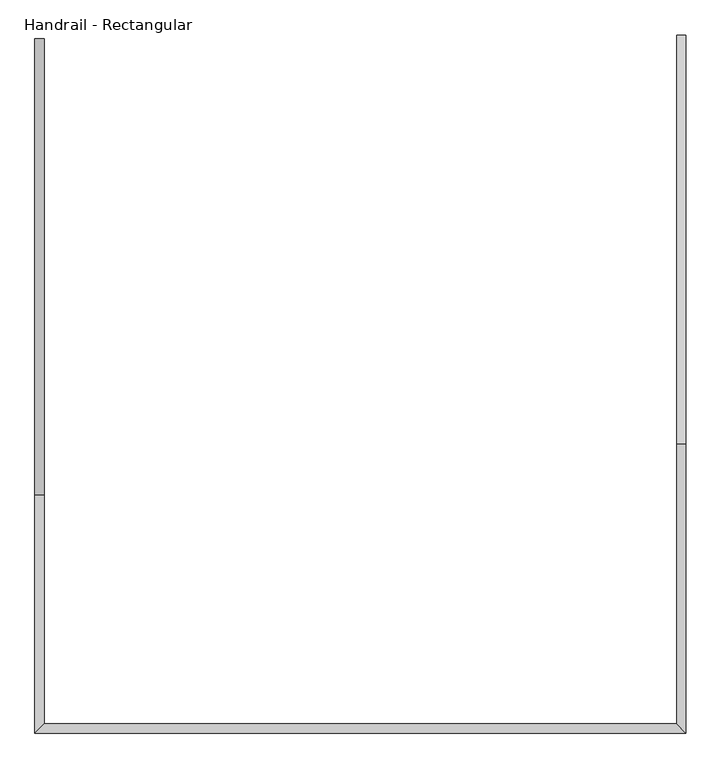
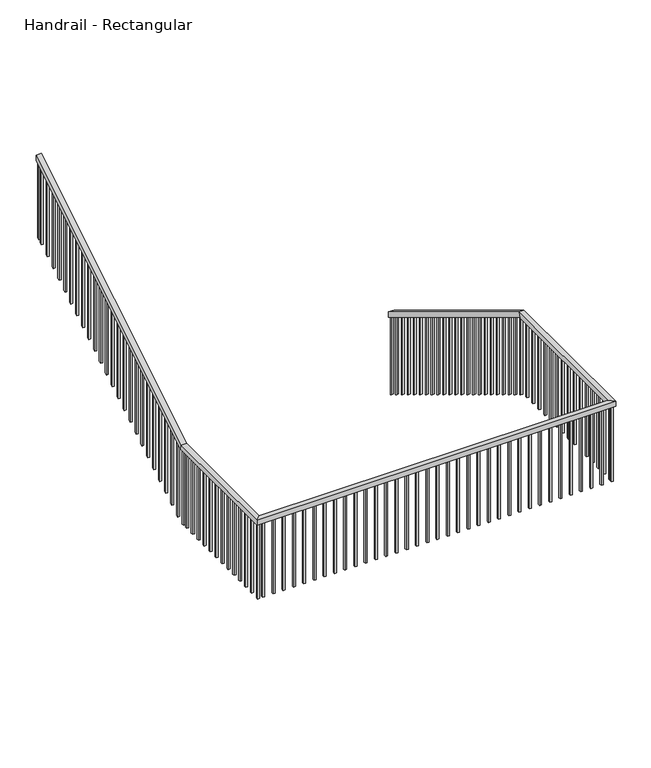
"""IFC4 building model written with IfcOpenShell, lengths in millimetres: railing geometry, Handrail - Rectangular."""

from ifc_helpers import new_model, si_unit, frame, origin, place, context, project, spatial, polyline, outline, extrude, faceted_brep, source, transform, mapped, element, save


def handrail_rectangular_05feaf7c(model_context):
    return source(origin(), model_context, "Body", "SolidModel", [
        faceted_brep([(1145.8499602, -2968.3161799, 4131.7333333), (1145.8499602, -2968.3161799, 4072.3318731), (1095.0499602, -2968.3161799, 4072.3318731), (1095.0499602, -2968.3161799, 4131.7333333), (1145.8499602, -5203.5161799, 5486.4), (1145.8499602, -5217.7085893, 5435.6), (1095.0499602, -5217.7085893, 5435.6), (1095.0499602, -5203.5161799, 5486.4), (1145.8499602, -6778.3161799, 5486.4), (1145.8499602, -6778.3161799, 5435.6), (1095.0499602, -6727.5161799, 5435.6), (1095.0499602, -6727.5161799, 5486.4), (-2410.1500398, -6778.3161799, 5486.4), (-2410.1500398, -6778.3161799, 5435.6), (-2359.3500398, -6727.5161799, 5435.6), (-2359.3500398, -6727.5161799, 5486.4), (-2410.1500398, -5479.8809769, 5486.4), (-2410.1500398, -5465.5555709, 5435.6), (-2359.3500398, -5465.5555709, 5435.6), (-2359.3500398, -5479.8809769, 5486.4), (-2410.1500398, -2989.5626011, 7012.2597197), (-2359.3500398, -2989.5626011, 7012.2597197), (-2359.3500398, -2989.5626011, 6952.6823038), (-2410.1500398, -2989.5626011, 6952.6823038)], [[[0, 1, 2, 3]], [[1, 0, 4, 5]], [[2, 1, 5, 6]], [[3, 2, 6, 7]], [[0, 3, 7, 4]], [[5, 4, 8, 9]], [[6, 5, 9, 10]], [[7, 6, 10, 11]], [[4, 7, 11, 8]], [[9, 8, 12, 13]], [[10, 9, 13, 14]], [[11, 10, 14, 15]], [[8, 11, 15, 12]], [[13, 12, 16, 17]], [[14, 13, 17, 18]], [[15, 14, 18, 19]], [[12, 15, 19, 16]], [[20, 21, 22, 23]], [[17, 16, 20, 23]], [[18, 17, 23, 22]], [[19, 18, 22, 21]], [[16, 19, 21, 20]]]),
        extrude(outline(polyline([(-3031.9559769, 6926.7071735), (-3031.9559769, 6115.2902251), (-3051.0059769, 6103.6179715), (-3051.0059769, 6915.0349199), (-3031.9559769, 6926.7071735)])), frame((-2394.2750398, 0.0, 0.0), z_axis=(1.0, 0.0, 0.0), x_axis=(0.0, 1.0, 0.0)), (0.0, 0.0, 1.0), 19.05),
        extrude(outline(polyline([(-3133.5559769, 6864.4551542), (-3133.5559769, 6053.0382058), (-3152.6059769, 6041.3659522), (-3152.6059769, 6852.7829006), (-3133.5559769, 6864.4551542)])), frame((-2394.2750398, 0.0, 0.0), z_axis=(1.0, 0.0, 0.0), x_axis=(0.0, 1.0, 0.0)), (0.0, 0.0, 1.0), 19.05),
        extrude(outline(polyline([(-3235.1559769, 6802.2031349), (-3235.1559769, 5990.7861866), (-3254.2059769, 5979.1139329), (-3254.2059769, 6790.5308813), (-3235.1559769, 6802.2031349)])), frame((-2394.2750398, 0.0, 0.0), z_axis=(1.0, 0.0, 0.0), x_axis=(0.0, 1.0, 0.0)), (0.0, 0.0, 1.0), 19.05),
        extrude(outline(polyline([(-3336.7559769, 6739.9511157), (-3336.7559769, 5928.5341673), (-3355.8059769, 5916.8619137), (-3355.8059769, 6728.2788621), (-3336.7559769, 6739.9511157)])), frame((-2394.2750398, 0.0, 0.0), z_axis=(1.0, 0.0, 0.0), x_axis=(0.0, 1.0, 0.0)), (0.0, 0.0, 1.0), 19.05),
        extrude(outline(polyline([(-3438.3559769, 6677.6990964), (-3438.3559769, 5866.282148), (-3457.4059769, 5854.6098944), (-3457.4059769, 6666.0268428), (-3438.3559769, 6677.6990964)])), frame((-2394.2750398, 0.0, 0.0), z_axis=(1.0, 0.0, 0.0), x_axis=(0.0, 1.0, 0.0)), (0.0, 0.0, 1.0), 19.05),
        extrude(outline(polyline([(-3539.9559769, 6615.4470771), (-3539.9559769, 5804.0301287), (-3559.0059769, 5792.3578751), (-3559.0059769, 6603.7748235), (-3539.9559769, 6615.4470771)])), frame((-2394.2750398, 0.0, 0.0), z_axis=(1.0, 0.0, 0.0), x_axis=(0.0, 1.0, 0.0)), (0.0, 0.0, 1.0), 19.05),
        extrude(outline(polyline([(-3641.5559769, 6553.1950579), (-3641.5559769, 5741.7781095), (-3660.6059769, 5730.1058559), (-3660.6059769, 6541.5228042), (-3641.5559769, 6553.1950579)])), frame((-2394.2750398, 0.0, 0.0), z_axis=(1.0, 0.0, 0.0), x_axis=(0.0, 1.0, 0.0)), (0.0, 0.0, 1.0), 19.05),
        extrude(outline(polyline([(-3743.1559769, 6490.9430386), (-3743.1559769, 5679.5260902), (-3762.2059769, 5667.8538366), (-3762.2059769, 6479.270785), (-3743.1559769, 6490.9430386)])), frame((-2394.2750398, 0.0, 0.0), z_axis=(1.0, 0.0, 0.0), x_axis=(0.0, 1.0, 0.0)), (0.0, 0.0, 1.0), 19.05),
        extrude(outline(polyline([(-3844.7559769, 6428.6910193), (-3844.7559769, 5617.2740709), (-3863.8059769, 5605.6018173), (-3863.8059769, 6417.0187657), (-3844.7559769, 6428.6910193)])), frame((-2394.2750398, 0.0, 0.0), z_axis=(1.0, 0.0, 0.0), x_axis=(0.0, 1.0, 0.0)), (0.0, 0.0, 1.0), 19.05),
        extrude(outline(polyline([(-3946.3559769, 6366.439), (-3946.3559769, 5555.0220517), (-3965.4059769, 5543.349798), (-3965.4059769, 6354.7667464), (-3946.3559769, 6366.439)])), frame((-2394.2750398, 0.0, 0.0), z_axis=(1.0, 0.0, 0.0), x_axis=(0.0, 1.0, 0.0)), (0.0, 0.0, 1.0), 19.05),
        extrude(outline(polyline([(-4047.9559769, 6304.1869808), (-4047.9559769, 5492.7700324), (-4067.0059769, 5481.0977788), (-4067.0059769, 6292.5147272), (-4047.9559769, 6304.1869808)])), frame((-2394.2750398, 0.0, 0.0), z_axis=(1.0, 0.0, 0.0), x_axis=(0.0, 1.0, 0.0)), (0.0, 0.0, 1.0), 19.05),
        extrude(outline(polyline([(-4149.5559769, 6241.9349615), (-4149.5559769, 5430.5180131), (-4168.6059769, 5418.8457595), (-4168.6059769, 6230.2627079), (-4149.5559769, 6241.9349615)])), frame((-2394.2750398, 0.0, 0.0), z_axis=(1.0, 0.0, 0.0), x_axis=(0.0, 1.0, 0.0)), (0.0, 0.0, 1.0), 19.05),
        extrude(outline(polyline([(-4251.1559769, 6179.6829422), (-4251.1559769, 5368.2659938), (-4270.2059769, 5356.5937402), (-4270.2059769, 6168.0106886), (-4251.1559769, 6179.6829422)])), frame((-2394.2750398, 0.0, 0.0), z_axis=(1.0, 0.0, 0.0), x_axis=(0.0, 1.0, 0.0)), (0.0, 0.0, 1.0), 19.05),
        extrude(outline(polyline([(-4352.7559769, 6117.430923), (-4352.7559769, 5306.0139746), (-4371.8059769, 5294.341721), (-4371.8059769, 6105.7586694), (-4352.7559769, 6117.430923)])), frame((-2394.2750398, 0.0, 0.0), z_axis=(1.0, 0.0, 0.0), x_axis=(0.0, 1.0, 0.0)), (0.0, 0.0, 1.0), 19.05),
        extrude(outline(polyline([(-4454.3559769, 6055.1789037), (-4454.3559769, 5243.7619553), (-4473.4059769, 5232.0897017), (-4473.4059769, 6043.5066501), (-4454.3559769, 6055.1789037)])), frame((-2394.2750398, 0.0, 0.0), z_axis=(1.0, 0.0, 0.0), x_axis=(0.0, 1.0, 0.0)), (0.0, 0.0, 1.0), 19.05),
        extrude(outline(polyline([(-4555.9559769, 5992.9268844), (-4555.9559769, 5181.509936), (-4575.0059769, 5169.8376824), (-4575.0059769, 5981.2546308), (-4555.9559769, 5992.9268844)])), frame((-2394.2750398, 0.0, 0.0), z_axis=(1.0, 0.0, 0.0), x_axis=(0.0, 1.0, 0.0)), (0.0, 0.0, 1.0), 19.05),
        extrude(outline(polyline([(-4657.5559769, 5930.6748652), (-4657.5559769, 5119.2579168), (-4676.6059769, 5107.5856632), (-4676.6059769, 5919.0026115), (-4657.5559769, 5930.6748652)])), frame((-2394.2750398, 0.0, 0.0), z_axis=(1.0, 0.0, 0.0), x_axis=(0.0, 1.0, 0.0)), (0.0, 0.0, 1.0), 19.05),
        extrude(outline(polyline([(-4759.1559769, 5868.4228459), (-4759.1559769, 5057.0058975), (-4778.2059769, 5045.3336439), (-4778.2059769, 5856.7505923), (-4759.1559769, 5868.4228459)])), frame((-2394.2750398, 0.0, 0.0), z_axis=(1.0, 0.0, 0.0), x_axis=(0.0, 1.0, 0.0)), (0.0, 0.0, 1.0), 19.05),
        extrude(outline(polyline([(-4860.7559769, 5806.1708266), (-4860.7559769, 4994.7538782), (-4879.8059769, 4983.0816246), (-4879.8059769, 5794.498573), (-4860.7559769, 5806.1708266)])), frame((-2394.2750398, 0.0, 0.0), z_axis=(1.0, 0.0, 0.0), x_axis=(0.0, 1.0, 0.0)), (0.0, 0.0, 1.0), 19.05),
        extrude(outline(polyline([(-4962.3559769, 5743.9188073), (-4962.3559769, 4932.501859), (-4981.4059769, 4920.8296053), (-4981.4059769, 5732.2465537), (-4962.3559769, 5743.9188073)])), frame((-2394.2750398, 0.0, 0.0), z_axis=(1.0, 0.0, 0.0), x_axis=(0.0, 1.0, 0.0)), (0.0, 0.0, 1.0), 19.05),
        extrude(outline(polyline([(-5063.9559769, 5681.6667881), (-5063.9559769, 4870.2498397), (-5083.0059769, 4858.5775861), (-5083.0059769, 5669.9945345), (-5063.9559769, 5681.6667881)])), frame((-2394.2750398, 0.0, 0.0), z_axis=(1.0, 0.0, 0.0), x_axis=(0.0, 1.0, 0.0)), (0.0, 0.0, 1.0), 19.05),
        extrude(outline(polyline([(-5165.5559769, 5619.4147688), (-5165.5559769, 4807.9978204), (-5184.6059769, 4796.3255668), (-5184.6059769, 5607.7425152), (-5165.5559769, 5619.4147688)])), frame((-2394.2750398, 0.0, 0.0), z_axis=(1.0, 0.0, 0.0), x_axis=(0.0, 1.0, 0.0)), (0.0, 0.0, 1.0), 19.05),
        extrude(outline(polyline([(-5267.1559769, 5557.1627495), (-5267.1559769, 4745.7458011), (-5286.2059769, 4734.0735475), (-5286.2059769, 5545.4904959), (-5267.1559769, 5557.1627495)])), frame((-2394.2750398, 0.0, 0.0), z_axis=(1.0, 0.0, 0.0), x_axis=(0.0, 1.0, 0.0)), (0.0, 0.0, 1.0), 19.05),
        extrude(outline(polyline([(-5368.7559769, 5494.9107303), (-5368.7559769, 4683.4937819), (-5387.8059769, 4671.8215283), (-5387.8059769, 5483.2384766), (-5368.7559769, 5494.9107303)])), frame((-2394.2750398, 0.0, 0.0), z_axis=(1.0, 0.0, 0.0), x_axis=(0.0, 1.0, 0.0)), (0.0, 0.0, 1.0), 19.05),
        extrude(outline(polyline([(-2394.2750398, -5543.2411799), (-2394.2750398, -5524.1911799), (-2375.2250398, -5524.1911799), (-2375.2250398, -5543.2411799), (-2394.2750398, -5543.2411799)])), frame((0.0, 0.0, 4648.2), z_axis=(0.0, 0.0, 1.0), x_axis=(1.0, 0.0, 0.0)), (0.0, 0.0, 1.0), 787.4),
        extrude(outline(polyline([(-2394.2750398, -5644.8411799), (-2394.2750398, -5625.7911799), (-2375.2250398, -5625.7911799), (-2375.2250398, -5644.8411799), (-2394.2750398, -5644.8411799)])), frame((0.0, 0.0, 4648.2), z_axis=(0.0, 0.0, 1.0), x_axis=(1.0, 0.0, 0.0)), (0.0, 0.0, 1.0), 787.4),
        extrude(outline(polyline([(-2394.2750398, -5746.4411799), (-2394.2750398, -5727.3911799), (-2375.2250398, -5727.3911799), (-2375.2250398, -5746.4411799), (-2394.2750398, -5746.4411799)])), frame((0.0, 0.0, 4648.2), z_axis=(0.0, 0.0, 1.0), x_axis=(1.0, 0.0, 0.0)), (0.0, 0.0, 1.0), 787.4),
        extrude(outline(polyline([(-2394.2750398, -5848.0411799), (-2394.2750398, -5828.9911799), (-2375.2250398, -5828.9911799), (-2375.2250398, -5848.0411799), (-2394.2750398, -5848.0411799)])), frame((0.0, 0.0, 4648.2), z_axis=(0.0, 0.0, 1.0), x_axis=(1.0, 0.0, 0.0)), (0.0, 0.0, 1.0), 787.4),
        extrude(outline(polyline([(-2394.2750398, -5949.6411799), (-2394.2750398, -5930.5911799), (-2375.2250398, -5930.5911799), (-2375.2250398, -5949.6411799), (-2394.2750398, -5949.6411799)])), frame((0.0, 0.0, 4648.2), z_axis=(0.0, 0.0, 1.0), x_axis=(1.0, 0.0, 0.0)), (0.0, 0.0, 1.0), 787.4),
        extrude(outline(polyline([(-2394.2750398, -6051.2411799), (-2394.2750398, -6032.1911799), (-2375.2250398, -6032.1911799), (-2375.2250398, -6051.2411799), (-2394.2750398, -6051.2411799)])), frame((0.0, 0.0, 4648.2), z_axis=(0.0, 0.0, 1.0), x_axis=(1.0, 0.0, 0.0)), (0.0, 0.0, 1.0), 787.4),
        extrude(outline(polyline([(-2394.2750398, -6152.8411799), (-2394.2750398, -6133.7911799), (-2375.2250398, -6133.7911799), (-2375.2250398, -6152.8411799), (-2394.2750398, -6152.8411799)])), frame((0.0, 0.0, 4648.2), z_axis=(0.0, 0.0, 1.0), x_axis=(1.0, 0.0, 0.0)), (0.0, 0.0, 1.0), 787.4),
        extrude(outline(polyline([(-2394.2750398, -6254.4411799), (-2394.2750398, -6235.3911799), (-2375.2250398, -6235.3911799), (-2375.2250398, -6254.4411799), (-2394.2750398, -6254.4411799)])), frame((0.0, 0.0, 4648.2), z_axis=(0.0, 0.0, 1.0), x_axis=(1.0, 0.0, 0.0)), (0.0, 0.0, 1.0), 787.4),
        extrude(outline(polyline([(-2394.2750398, -6356.0411799), (-2394.2750398, -6336.9911799), (-2375.2250398, -6336.9911799), (-2375.2250398, -6356.0411799), (-2394.2750398, -6356.0411799)])), frame((0.0, 0.0, 4648.2), z_axis=(0.0, 0.0, 1.0), x_axis=(1.0, 0.0, 0.0)), (0.0, 0.0, 1.0), 787.4),
        extrude(outline(polyline([(-2394.2750398, -6457.6411799), (-2394.2750398, -6438.5911799), (-2375.2250398, -6438.5911799), (-2375.2250398, -6457.6411799), (-2394.2750398, -6457.6411799)])), frame((0.0, 0.0, 4648.2), z_axis=(0.0, 0.0, 1.0), x_axis=(1.0, 0.0, 0.0)), (0.0, 0.0, 1.0), 787.4),
        extrude(outline(polyline([(-2394.2750398, -6559.2411799), (-2394.2750398, -6540.1911799), (-2375.2250398, -6540.1911799), (-2375.2250398, -6559.2411799), (-2394.2750398, -6559.2411799)])), frame((0.0, 0.0, 4648.2), z_axis=(0.0, 0.0, 1.0), x_axis=(1.0, 0.0, 0.0)), (0.0, 0.0, 1.0), 787.4),
        extrude(outline(polyline([(-2394.2750398, -6660.8411799), (-2394.2750398, -6641.7911799), (-2375.2250398, -6641.7911799), (-2375.2250398, -6660.8411799), (-2394.2750398, -6660.8411799)])), frame((0.0, 0.0, 4648.2), z_axis=(0.0, 0.0, 1.0), x_axis=(1.0, 0.0, 0.0)), (0.0, 0.0, 1.0), 787.4),
        extrude(outline(polyline([(-2324.4250398, -6762.4411799), (-2343.4750398, -6762.4411799), (-2343.4750398, -6743.3911799), (-2324.4250398, -6743.3911799), (-2324.4250398, -6762.4411799)])), frame((0.0, 0.0, 4648.2), z_axis=(0.0, 0.0, 1.0), x_axis=(1.0, 0.0, 0.0)), (0.0, 0.0, 1.0), 787.4),
        extrude(outline(polyline([(-2222.8250398, -6762.4411799), (-2241.8750398, -6762.4411799), (-2241.8750398, -6743.3911799), (-2222.8250398, -6743.3911799), (-2222.8250398, -6762.4411799)])), frame((0.0, 0.0, 4648.2), z_axis=(0.0, 0.0, 1.0), x_axis=(1.0, 0.0, 0.0)), (0.0, 0.0, 1.0), 787.4),
        extrude(outline(polyline([(-2121.2250398, -6762.4411799), (-2140.2750398, -6762.4411799), (-2140.2750398, -6743.3911799), (-2121.2250398, -6743.3911799), (-2121.2250398, -6762.4411799)])), frame((0.0, 0.0, 4648.2), z_axis=(0.0, 0.0, 1.0), x_axis=(1.0, 0.0, 0.0)), (0.0, 0.0, 1.0), 787.4),
        extrude(outline(polyline([(-2019.6250398, -6762.4411799), (-2038.6750398, -6762.4411799), (-2038.6750398, -6743.3911799), (-2019.6250398, -6743.3911799), (-2019.6250398, -6762.4411799)])), frame((0.0, 0.0, 4648.2), z_axis=(0.0, 0.0, 1.0), x_axis=(1.0, 0.0, 0.0)), (0.0, 0.0, 1.0), 787.4),
        extrude(outline(polyline([(-1918.0250398, -6762.4411799), (-1937.0750398, -6762.4411799), (-1937.0750398, -6743.3911799), (-1918.0250398, -6743.3911799), (-1918.0250398, -6762.4411799)])), frame((0.0, 0.0, 4648.2), z_axis=(0.0, 0.0, 1.0), x_axis=(1.0, 0.0, 0.0)), (0.0, 0.0, 1.0), 787.4),
        extrude(outline(polyline([(-1816.4250398, -6762.4411799), (-1835.4750398, -6762.4411799), (-1835.4750398, -6743.3911799), (-1816.4250398, -6743.3911799), (-1816.4250398, -6762.4411799)])), frame((0.0, 0.0, 4648.2), z_axis=(0.0, 0.0, 1.0), x_axis=(1.0, 0.0, 0.0)), (0.0, 0.0, 1.0), 787.4),
        extrude(outline(polyline([(-1714.8250398, -6762.4411799), (-1733.8750398, -6762.4411799), (-1733.8750398, -6743.3911799), (-1714.8250398, -6743.3911799), (-1714.8250398, -6762.4411799)])), frame((0.0, 0.0, 4648.2), z_axis=(0.0, 0.0, 1.0), x_axis=(1.0, 0.0, 0.0)), (0.0, 0.0, 1.0), 787.4),
        extrude(outline(polyline([(-1613.2250398, -6762.4411799), (-1632.2750398, -6762.4411799), (-1632.2750398, -6743.3911799), (-1613.2250398, -6743.3911799), (-1613.2250398, -6762.4411799)])), frame((0.0, 0.0, 4648.2), z_axis=(0.0, 0.0, 1.0), x_axis=(1.0, 0.0, 0.0)), (0.0, 0.0, 1.0), 787.4),
        extrude(outline(polyline([(-1511.6250398, -6762.4411799), (-1530.6750398, -6762.4411799), (-1530.6750398, -6743.3911799), (-1511.6250398, -6743.3911799), (-1511.6250398, -6762.4411799)])), frame((0.0, 0.0, 4648.2), z_axis=(0.0, 0.0, 1.0), x_axis=(1.0, 0.0, 0.0)), (0.0, 0.0, 1.0), 787.4),
        extrude(outline(polyline([(-1410.0250398, -6762.4411799), (-1429.0750398, -6762.4411799), (-1429.0750398, -6743.3911799), (-1410.0250398, -6743.3911799), (-1410.0250398, -6762.4411799)])), frame((0.0, 0.0, 4648.2), z_axis=(0.0, 0.0, 1.0), x_axis=(1.0, 0.0, 0.0)), (0.0, 0.0, 1.0), 787.4),
        extrude(outline(polyline([(-1308.4250398, -6762.4411799), (-1327.4750398, -6762.4411799), (-1327.4750398, -6743.3911799), (-1308.4250398, -6743.3911799), (-1308.4250398, -6762.4411799)])), frame((0.0, 0.0, 4648.2), z_axis=(0.0, 0.0, 1.0), x_axis=(1.0, 0.0, 0.0)), (0.0, 0.0, 1.0), 787.4),
        extrude(outline(polyline([(-1206.8250398, -6762.4411799), (-1225.8750398, -6762.4411799), (-1225.8750398, -6743.3911799), (-1206.8250398, -6743.3911799), (-1206.8250398, -6762.4411799)])), frame((0.0, 0.0, 4648.2), z_axis=(0.0, 0.0, 1.0), x_axis=(1.0, 0.0, 0.0)), (0.0, 0.0, 1.0), 787.4),
        extrude(outline(polyline([(-1105.2250398, -6762.4411799), (-1124.2750398, -6762.4411799), (-1124.2750398, -6743.3911799), (-1105.2250398, -6743.3911799), (-1105.2250398, -6762.4411799)])), frame((0.0, 0.0, 4648.2), z_axis=(0.0, 0.0, 1.0), x_axis=(1.0, 0.0, 0.0)), (0.0, 0.0, 1.0), 787.4),
        extrude(outline(polyline([(-1003.6250398, -6762.4411799), (-1022.6750398, -6762.4411799), (-1022.6750398, -6743.3911799), (-1003.6250398, -6743.3911799), (-1003.6250398, -6762.4411799)])), frame((0.0, 0.0, 4648.2), z_axis=(0.0, 0.0, 1.0), x_axis=(1.0, 0.0, 0.0)), (0.0, 0.0, 1.0), 787.4),
        extrude(outline(polyline([(-902.0250398, -6762.4411799), (-921.0750398, -6762.4411799), (-921.0750398, -6743.3911799), (-902.0250398, -6743.3911799), (-902.0250398, -6762.4411799)])), frame((0.0, 0.0, 4648.2), z_axis=(0.0, 0.0, 1.0), x_axis=(1.0, 0.0, 0.0)), (0.0, 0.0, 1.0), 787.4),
        extrude(outline(polyline([(-800.4250398, -6762.4411799), (-819.4750398, -6762.4411799), (-819.4750398, -6743.3911799), (-800.4250398, -6743.3911799), (-800.4250398, -6762.4411799)])), frame((0.0, 0.0, 4648.2), z_axis=(0.0, 0.0, 1.0), x_axis=(1.0, 0.0, 0.0)), (0.0, 0.0, 1.0), 787.4),
        extrude(outline(polyline([(-698.8250398, -6762.4411799), (-717.8750398, -6762.4411799), (-717.8750398, -6743.3911799), (-698.8250398, -6743.3911799), (-698.8250398, -6762.4411799)])), frame((0.0, 0.0, 4648.2), z_axis=(0.0, 0.0, 1.0), x_axis=(1.0, 0.0, 0.0)), (0.0, 0.0, 1.0), 787.4),
        extrude(outline(polyline([(-597.2250398, -6762.4411799), (-616.2750398, -6762.4411799), (-616.2750398, -6743.3911799), (-597.2250398, -6743.3911799), (-597.2250398, -6762.4411799)])), frame((0.0, 0.0, 4648.2), z_axis=(0.0, 0.0, 1.0), x_axis=(1.0, 0.0, 0.0)), (0.0, 0.0, 1.0), 787.4),
        extrude(outline(polyline([(-495.6250398, -6762.4411799), (-514.6750398, -6762.4411799), (-514.6750398, -6743.3911799), (-495.6250398, -6743.3911799), (-495.6250398, -6762.4411799)])), frame((0.0, 0.0, 4648.2), z_axis=(0.0, 0.0, 1.0), x_axis=(1.0, 0.0, 0.0)), (0.0, 0.0, 1.0), 787.4),
        extrude(outline(polyline([(-394.0250398, -6762.4411799), (-413.0750398, -6762.4411799), (-413.0750398, -6743.3911799), (-394.0250398, -6743.3911799), (-394.0250398, -6762.4411799)])), frame((0.0, 0.0, 4648.2), z_axis=(0.0, 0.0, 1.0), x_axis=(1.0, 0.0, 0.0)), (0.0, 0.0, 1.0), 787.4),
        extrude(outline(polyline([(-292.4250398, -6762.4411799), (-311.4750398, -6762.4411799), (-311.4750398, -6743.3911799), (-292.4250398, -6743.3911799), (-292.4250398, -6762.4411799)])), frame((0.0, 0.0, 4648.2), z_axis=(0.0, 0.0, 1.0), x_axis=(1.0, 0.0, 0.0)), (0.0, 0.0, 1.0), 787.4),
        extrude(outline(polyline([(-190.8250398, -6762.4411799), (-209.8750398, -6762.4411799), (-209.8750398, -6743.3911799), (-190.8250398, -6743.3911799), (-190.8250398, -6762.4411799)])), frame((0.0, 0.0, 4648.2), z_axis=(0.0, 0.0, 1.0), x_axis=(1.0, 0.0, 0.0)), (0.0, 0.0, 1.0), 787.4),
        extrude(outline(polyline([(-89.2250398, -6762.4411799), (-108.2750398, -6762.4411799), (-108.2750398, -6743.3911799), (-89.2250398, -6743.3911799), (-89.2250398, -6762.4411799)])), frame((0.0, 0.0, 4648.2), z_axis=(0.0, 0.0, 1.0), x_axis=(1.0, 0.0, 0.0)), (0.0, 0.0, 1.0), 787.4),
        extrude(outline(polyline([(12.3749602, -6762.4411799), (-6.6750398, -6762.4411799), (-6.6750398, -6743.3911799), (12.3749602, -6743.3911799), (12.3749602, -6762.4411799)])), frame((0.0, 0.0, 4648.2), z_axis=(0.0, 0.0, 1.0), x_axis=(1.0, 0.0, 0.0)), (0.0, 0.0, 1.0), 787.4),
        extrude(outline(polyline([(113.9749602, -6762.4411799), (94.9249602, -6762.4411799), (94.9249602, -6743.3911799), (113.9749602, -6743.3911799), (113.9749602, -6762.4411799)])), frame((0.0, 0.0, 4648.2), z_axis=(0.0, 0.0, 1.0), x_axis=(1.0, 0.0, 0.0)), (0.0, 0.0, 1.0), 787.4),
        extrude(outline(polyline([(215.5749602, -6762.4411799), (196.5249602, -6762.4411799), (196.5249602, -6743.3911799), (215.5749602, -6743.3911799), (215.5749602, -6762.4411799)])), frame((0.0, 0.0, 4648.2), z_axis=(0.0, 0.0, 1.0), x_axis=(1.0, 0.0, 0.0)), (0.0, 0.0, 1.0), 787.4),
        extrude(outline(polyline([(317.1749602, -6762.4411799), (298.1249602, -6762.4411799), (298.1249602, -6743.3911799), (317.1749602, -6743.3911799), (317.1749602, -6762.4411799)])), frame((0.0, 0.0, 4648.2), z_axis=(0.0, 0.0, 1.0), x_axis=(1.0, 0.0, 0.0)), (0.0, 0.0, 1.0), 787.4),
        extrude(outline(polyline([(418.7749602, -6762.4411799), (399.7249602, -6762.4411799), (399.7249602, -6743.3911799), (418.7749602, -6743.3911799), (418.7749602, -6762.4411799)])), frame((0.0, 0.0, 4648.2), z_axis=(0.0, 0.0, 1.0), x_axis=(1.0, 0.0, 0.0)), (0.0, 0.0, 1.0), 787.4),
        extrude(outline(polyline([(520.3749602, -6762.4411799), (501.3249602, -6762.4411799), (501.3249602, -6743.3911799), (520.3749602, -6743.3911799), (520.3749602, -6762.4411799)])), frame((0.0, 0.0, 4648.2), z_axis=(0.0, 0.0, 1.0), x_axis=(1.0, 0.0, 0.0)), (0.0, 0.0, 1.0), 787.4),
        extrude(outline(polyline([(621.9749602, -6762.4411799), (602.9249602, -6762.4411799), (602.9249602, -6743.3911799), (621.9749602, -6743.3911799), (621.9749602, -6762.4411799)])), frame((0.0, 0.0, 4648.2), z_axis=(0.0, 0.0, 1.0), x_axis=(1.0, 0.0, 0.0)), (0.0, 0.0, 1.0), 787.4),
        extrude(outline(polyline([(723.5749602, -6762.4411799), (704.5249602, -6762.4411799), (704.5249602, -6743.3911799), (723.5749602, -6743.3911799), (723.5749602, -6762.4411799)])), frame((0.0, 0.0, 4648.2), z_axis=(0.0, 0.0, 1.0), x_axis=(1.0, 0.0, 0.0)), (0.0, 0.0, 1.0), 787.4),
        extrude(outline(polyline([(825.1749602, -6762.4411799), (806.1249602, -6762.4411799), (806.1249602, -6743.3911799), (825.1749602, -6743.3911799), (825.1749602, -6762.4411799)])), frame((0.0, 0.0, 4648.2), z_axis=(0.0, 0.0, 1.0), x_axis=(1.0, 0.0, 0.0)), (0.0, 0.0, 1.0), 787.4),
        extrude(outline(polyline([(926.7749602, -6762.4411799), (907.7249602, -6762.4411799), (907.7249602, -6743.3911799), (926.7749602, -6743.3911799), (926.7749602, -6762.4411799)])), frame((0.0, 0.0, 4648.2), z_axis=(0.0, 0.0, 1.0), x_axis=(1.0, 0.0, 0.0)), (0.0, 0.0, 1.0), 787.4),
        extrude(outline(polyline([(1028.3749602, -6762.4411799), (1009.3249602, -6762.4411799), (1009.3249602, -6743.3911799), (1028.3749602, -6743.3911799), (1028.3749602, -6762.4411799)])), frame((0.0, 0.0, 4648.2), z_axis=(0.0, 0.0, 1.0), x_axis=(1.0, 0.0, 0.0)), (0.0, 0.0, 1.0), 787.4),
        extrude(outline(polyline([(1129.9749602, -6717.9911799), (1129.9749602, -6737.0411799), (1110.9249602, -6737.0411799), (1110.9249602, -6717.9911799), (1129.9749602, -6717.9911799)])), frame((0.0, 0.0, 4648.2), z_axis=(0.0, 0.0, 1.0), x_axis=(1.0, 0.0, 0.0)), (0.0, 0.0, 1.0), 787.4),
        extrude(outline(polyline([(1129.9749602, -6616.3911799), (1129.9749602, -6635.4411799), (1110.9249602, -6635.4411799), (1110.9249602, -6616.3911799), (1129.9749602, -6616.3911799)])), frame((0.0, 0.0, 4648.2), z_axis=(0.0, 0.0, 1.0), x_axis=(1.0, 0.0, 0.0)), (0.0, 0.0, 1.0), 787.4),
        extrude(outline(polyline([(1129.9749602, -6514.7911799), (1129.9749602, -6533.8411799), (1110.9249602, -6533.8411799), (1110.9249602, -6514.7911799), (1129.9749602, -6514.7911799)])), frame((0.0, 0.0, 4648.2), z_axis=(0.0, 0.0, 1.0), x_axis=(1.0, 0.0, 0.0)), (0.0, 0.0, 1.0), 787.4),
        extrude(outline(polyline([(1129.9749602, -6413.1911799), (1129.9749602, -6432.2411799), (1110.9249602, -6432.2411799), (1110.9249602, -6413.1911799), (1129.9749602, -6413.1911799)])), frame((0.0, 0.0, 4648.2), z_axis=(0.0, 0.0, 1.0), x_axis=(1.0, 0.0, 0.0)), (0.0, 0.0, 1.0), 787.4),
        extrude(outline(polyline([(1129.9749602, -6311.5911799), (1129.9749602, -6330.6411799), (1110.9249602, -6330.6411799), (1110.9249602, -6311.5911799), (1129.9749602, -6311.5911799)])), frame((0.0, 0.0, 4648.2), z_axis=(0.0, 0.0, 1.0), x_axis=(1.0, 0.0, 0.0)), (0.0, 0.0, 1.0), 787.4),
        extrude(outline(polyline([(1129.9749602, -6209.9911799), (1129.9749602, -6229.0411799), (1110.9249602, -6229.0411799), (1110.9249602, -6209.9911799), (1129.9749602, -6209.9911799)])), frame((0.0, 0.0, 4648.2), z_axis=(0.0, 0.0, 1.0), x_axis=(1.0, 0.0, 0.0)), (0.0, 0.0, 1.0), 787.4),
        extrude(outline(polyline([(1129.9749602, -6108.3911799), (1129.9749602, -6127.4411799), (1110.9249602, -6127.4411799), (1110.9249602, -6108.3911799), (1129.9749602, -6108.3911799)])), frame((0.0, 0.0, 4648.2), z_axis=(0.0, 0.0, 1.0), x_axis=(1.0, 0.0, 0.0)), (0.0, 0.0, 1.0), 787.4),
        extrude(outline(polyline([(1129.9749602, -6006.7911799), (1129.9749602, -6025.8411799), (1110.9249602, -6025.8411799), (1110.9249602, -6006.7911799), (1129.9749602, -6006.7911799)])), frame((0.0, 0.0, 4648.2), z_axis=(0.0, 0.0, 1.0), x_axis=(1.0, 0.0, 0.0)), (0.0, 0.0, 1.0), 787.4),
        extrude(outline(polyline([(1129.9749602, -5905.1911799), (1129.9749602, -5924.2411799), (1110.9249602, -5924.2411799), (1110.9249602, -5905.1911799), (1129.9749602, -5905.1911799)])), frame((0.0, 0.0, 4648.2), z_axis=(0.0, 0.0, 1.0), x_axis=(1.0, 0.0, 0.0)), (0.0, 0.0, 1.0), 787.4),
        extrude(outline(polyline([(1129.9749602, -5803.5911799), (1129.9749602, -5822.6411799), (1110.9249602, -5822.6411799), (1110.9249602, -5803.5911799), (1129.9749602, -5803.5911799)])), frame((0.0, 0.0, 4648.2), z_axis=(0.0, 0.0, 1.0), x_axis=(1.0, 0.0, 0.0)), (0.0, 0.0, 1.0), 787.4),
        extrude(outline(polyline([(1129.9749602, -5701.9911799), (1129.9749602, -5721.0411799), (1110.9249602, -5721.0411799), (1110.9249602, -5701.9911799), (1129.9749602, -5701.9911799)])), frame((0.0, 0.0, 4648.2), z_axis=(0.0, 0.0, 1.0), x_axis=(1.0, 0.0, 0.0)), (0.0, 0.0, 1.0), 787.4),
        extrude(outline(polyline([(1129.9749602, -5600.3911799), (1129.9749602, -5619.4411799), (1110.9249602, -5619.4411799), (1110.9249602, -5600.3911799), (1129.9749602, -5600.3911799)])), frame((0.0, 0.0, 4648.2), z_axis=(0.0, 0.0, 1.0), x_axis=(1.0, 0.0, 0.0)), (0.0, 0.0, 1.0), 787.4),
        extrude(outline(polyline([(1129.9749602, -5498.7911799), (1129.9749602, -5517.8411799), (1110.9249602, -5517.8411799), (1110.9249602, -5498.7911799), (1129.9749602, -5498.7911799)])), frame((0.0, 0.0, 4648.2), z_axis=(0.0, 0.0, 1.0), x_axis=(1.0, 0.0, 0.0)), (0.0, 0.0, 1.0), 787.4),
        extrude(outline(polyline([(1129.9749602, -5397.1911799), (1129.9749602, -5416.2411799), (1110.9249602, -5416.2411799), (1110.9249602, -5397.1911799), (1129.9749602, -5397.1911799)])), frame((0.0, 0.0, 4648.2), z_axis=(0.0, 0.0, 1.0), x_axis=(1.0, 0.0, 0.0)), (0.0, 0.0, 1.0), 787.4),
        extrude(outline(polyline([(1129.9749602, -5295.5911799), (1129.9749602, -5314.6411799), (1110.9249602, -5314.6411799), (1110.9249602, -5295.5911799), (1129.9749602, -5295.5911799)])), frame((0.0, 0.0, 4648.2), z_axis=(0.0, 0.0, 1.0), x_axis=(1.0, 0.0, 0.0)), (0.0, 0.0, 1.0), 787.4),
        extrude(outline(polyline([(-5092.3911799, 5359.6500549), (-5092.3911799, 4547.4326938), (-5111.4411799, 4558.9781483), (-5111.4411799, 5371.1955094), (-5092.3911799, 5359.6500549)])), frame((1110.9249602, 0.0, 0.0), z_axis=(1.0, 0.0, 0.0), x_axis=(0.0, 1.0, 0.0)), (0.0, 0.0, 1.0), 19.05),
        extrude(outline(polyline([(-4990.7911799, 5298.0742973), (-4990.7911799, 4485.8569362), (-5009.8411799, 4497.4023907), (-5009.8411799, 5309.6197519), (-4990.7911799, 5298.0742973)])), frame((1110.9249602, 0.0, 0.0), z_axis=(1.0, 0.0, 0.0), x_axis=(0.0, 1.0, 0.0)), (0.0, 0.0, 1.0), 19.05),
        extrude(outline(polyline([(-4889.1911799, 5236.4985397), (-4889.1911799, 4424.2811786), (-4908.2411799, 4435.8266332), (-4908.2411799, 5248.0439943), (-4889.1911799, 5236.4985397)])), frame((1110.9249602, 0.0, 0.0), z_axis=(1.0, 0.0, 0.0), x_axis=(0.0, 1.0, 0.0)), (0.0, 0.0, 1.0), 19.05),
        extrude(outline(polyline([(-4787.5911799, 5174.9227822), (-4787.5911799, 4362.7054211), (-4806.6411799, 4374.2508756), (-4806.6411799, 5186.4682367), (-4787.5911799, 5174.9227822)])), frame((1110.9249602, 0.0, 0.0), z_axis=(1.0, 0.0, 0.0), x_axis=(0.0, 1.0, 0.0)), (0.0, 0.0, 1.0), 19.05),
        extrude(outline(polyline([(-4685.9911799, 5113.3470246), (-4685.9911799, 4301.1296635), (-4705.0411799, 4312.675118), (-4705.0411799, 5124.8924791), (-4685.9911799, 5113.3470246)])), frame((1110.9249602, 0.0, 0.0), z_axis=(1.0, 0.0, 0.0), x_axis=(0.0, 1.0, 0.0)), (0.0, 0.0, 1.0), 19.05),
        extrude(outline(polyline([(-4584.3911799, 5051.771267), (-4584.3911799, 4239.5539059), (-4603.4411799, 4251.0993604), (-4603.4411799, 5063.3167216), (-4584.3911799, 5051.771267)])), frame((1110.9249602, 0.0, 0.0), z_axis=(1.0, 0.0, 0.0), x_axis=(0.0, 1.0, 0.0)), (0.0, 0.0, 1.0), 19.05),
        extrude(outline(polyline([(-4482.7911799, 4990.1955094), (-4482.7911799, 4177.9781483), (-4501.8411799, 4189.5236029), (-4501.8411799, 5001.740964), (-4482.7911799, 4990.1955094)])), frame((1110.9249602, 0.0, 0.0), z_axis=(1.0, 0.0, 0.0), x_axis=(0.0, 1.0, 0.0)), (0.0, 0.0, 1.0), 19.05),
        extrude(outline(polyline([(-4381.1911799, 4928.6197519), (-4381.1911799, 4116.4023907), (-4400.2411799, 4127.9478453), (-4400.2411799, 4940.1652064), (-4381.1911799, 4928.6197519)])), frame((1110.9249602, 0.0, 0.0), z_axis=(1.0, 0.0, 0.0), x_axis=(0.0, 1.0, 0.0)), (0.0, 0.0, 1.0), 19.05),
        extrude(outline(polyline([(-4279.5911799, 4867.0439943), (-4279.5911799, 4054.8266332), (-4298.6411799, 4066.3720877), (-4298.6411799, 4878.5894488), (-4279.5911799, 4867.0439943)])), frame((1110.9249602, 0.0, 0.0), z_axis=(1.0, 0.0, 0.0), x_axis=(0.0, 1.0, 0.0)), (0.0, 0.0, 1.0), 19.05),
        extrude(outline(polyline([(-4177.9911799, 4805.4682367), (-4177.9911799, 3993.2508756), (-4197.0411799, 4004.7963301), (-4197.0411799, 4817.0136913), (-4177.9911799, 4805.4682367)])), frame((1110.9249602, 0.0, 0.0), z_axis=(1.0, 0.0, 0.0), x_axis=(0.0, 1.0, 0.0)), (0.0, 0.0, 1.0), 19.05),
        extrude(outline(polyline([(-4076.3911799, 4743.8924791), (-4076.3911799, 3931.675118), (-4095.4411799, 3943.2205726), (-4095.4411799, 4755.4379337), (-4076.3911799, 4743.8924791)])), frame((1110.9249602, 0.0, 0.0), z_axis=(1.0, 0.0, 0.0), x_axis=(0.0, 1.0, 0.0)), (0.0, 0.0, 1.0), 19.05),
        extrude(outline(polyline([(-3974.7911799, 4682.3167216), (-3974.7911799, 3870.0993604), (-3993.8411799, 3881.644815), (-3993.8411799, 4693.8621761), (-3974.7911799, 4682.3167216)])), frame((1110.9249602, 0.0, 0.0), z_axis=(1.0, 0.0, 0.0), x_axis=(0.0, 1.0, 0.0)), (0.0, 0.0, 1.0), 19.05),
        extrude(outline(polyline([(-3873.1911799, 4620.740964), (-3873.1911799, 3808.5236029), (-3892.2411799, 3820.0690574), (-3892.2411799, 4632.2864185), (-3873.1911799, 4620.740964)])), frame((1110.9249602, 0.0, 0.0), z_axis=(1.0, 0.0, 0.0), x_axis=(0.0, 1.0, 0.0)), (0.0, 0.0, 1.0), 19.05),
        extrude(outline(polyline([(-3771.5911799, 4559.1652064), (-3771.5911799, 3746.9478453), (-3790.6411799, 3758.4932998), (-3790.6411799, 4570.710661), (-3771.5911799, 4559.1652064)])), frame((1110.9249602, 0.0, 0.0), z_axis=(1.0, 0.0, 0.0), x_axis=(0.0, 1.0, 0.0)), (0.0, 0.0, 1.0), 19.05),
        extrude(outline(polyline([(-3669.9911799, 4497.5894488), (-3669.9911799, 3685.3720877), (-3689.0411799, 3696.9175423), (-3689.0411799, 4509.1349034), (-3669.9911799, 4497.5894488)])), frame((1110.9249602, 0.0, 0.0), z_axis=(1.0, 0.0, 0.0), x_axis=(0.0, 1.0, 0.0)), (0.0, 0.0, 1.0), 19.05),
        extrude(outline(polyline([(-3568.3911799, 4436.0136913), (-3568.3911799, 3623.7963301), (-3587.4411799, 3635.3417847), (-3587.4411799, 4447.5591458), (-3568.3911799, 4436.0136913)])), frame((1110.9249602, 0.0, 0.0), z_axis=(1.0, 0.0, 0.0), x_axis=(0.0, 1.0, 0.0)), (0.0, 0.0, 1.0), 19.05),
        extrude(outline(polyline([(-3466.7911799, 4374.4379337), (-3466.7911799, 3562.2205726), (-3485.8411799, 3573.7660271), (-3485.8411799, 4385.9833882), (-3466.7911799, 4374.4379337)])), frame((1110.9249602, 0.0, 0.0), z_axis=(1.0, 0.0, 0.0), x_axis=(0.0, 1.0, 0.0)), (0.0, 0.0, 1.0), 19.05),
        extrude(outline(polyline([(-3365.1911799, 4312.8621761), (-3365.1911799, 3500.644815), (-3384.2411799, 3512.1902695), (-3384.2411799, 4324.4076307), (-3365.1911799, 4312.8621761)])), frame((1110.9249602, 0.0, 0.0), z_axis=(1.0, 0.0, 0.0), x_axis=(0.0, 1.0, 0.0)), (0.0, 0.0, 1.0), 19.05),
        extrude(outline(polyline([(-3263.5911799, 4251.2864185), (-3263.5911799, 3439.0690574), (-3282.6411799, 3450.614512), (-3282.6411799, 4262.8318731), (-3263.5911799, 4251.2864185)])), frame((1110.9249602, 0.0, 0.0), z_axis=(1.0, 0.0, 0.0), x_axis=(0.0, 1.0, 0.0)), (0.0, 0.0, 1.0), 19.05),
        extrude(outline(polyline([(-3161.9911799, 4189.710661), (-3161.9911799, 3377.4932998), (-3181.0411799, 3389.0387544), (-3181.0411799, 4201.2561155), (-3161.9911799, 4189.710661)])), frame((1110.9249602, 0.0, 0.0), z_axis=(1.0, 0.0, 0.0), x_axis=(0.0, 1.0, 0.0)), (0.0, 0.0, 1.0), 19.05),
        extrude(outline(polyline([(-3060.3911799, 4128.1349034), (-3060.3911799, 3315.9175423), (-3079.4411799, 3327.4629968), (-3079.4411799, 4139.6803579), (-3060.3911799, 4128.1349034)])), frame((1110.9249602, 0.0, 0.0), z_axis=(1.0, 0.0, 0.0), x_axis=(0.0, 1.0, 0.0)), (0.0, 0.0, 1.0), 19.05),
        extrude(outline(polyline([(-2394.2750398, -5489.4059769), (-2394.2750398, -5470.3559769), (-2375.2250398, -5470.3559769), (-2375.2250398, -5489.4059769), (-2394.2750398, -5489.4059769)])), frame((0.0, 0.0, 4648.2), z_axis=(0.0, 0.0, 1.0), x_axis=(1.0, 0.0, 0.0)), (0.0, 0.0, 1.0), 787.4),
        extrude(outline(polyline([(-2375.2250398, -6762.4411799), (-2394.2750398, -6762.4411799), (-2394.2750398, -6743.3911799), (-2375.2250398, -6743.3911799), (-2375.2250398, -6762.4411799)])), frame((0.0, 0.0, 4648.2), z_axis=(0.0, 0.0, 1.0), x_axis=(1.0, 0.0, 0.0)), (0.0, 0.0, 1.0), 787.4),
        extrude(outline(polyline([(1129.9749602, -6743.3911799), (1129.9749602, -6762.4411799), (1110.9249602, -6762.4411799), (1110.9249602, -6743.3911799), (1129.9749602, -6743.3911799)])), frame((0.0, 0.0, 4648.2), z_axis=(0.0, 0.0, 1.0), x_axis=(1.0, 0.0, 0.0)), (0.0, 0.0, 1.0), 787.4),
        extrude(outline(polyline([(-5193.9911799, 5421.2258125), (-5193.9911799, 4609.0084514), (-5213.0411799, 4620.5539059), (-5213.0411799, 5432.771267), (-5193.9911799, 5421.2258125)])), frame((1110.9249602, 0.0, 0.0), z_axis=(1.0, 0.0, 0.0), x_axis=(0.0, 1.0, 0.0)), (0.0, 0.0, 1.0), 19.05),
        extrude(outline(polyline([(-2989.5626011, 6952.6823038), (-2989.5626011, 6141.2653555), (-3008.6126011, 6129.5931018), (-3008.6126011, 6941.0100502), (-2989.5626011, 6952.6823038)])), frame((-2394.2750398, 0.0, 0.0), z_axis=(1.0, 0.0, 0.0), x_axis=(0.0, 1.0, 0.0)), (0.0, 0.0, 1.0), 19.05),
        extrude(outline(polyline([(-2968.3161799, 4072.3318731), (-2968.3161799, 3260.114512), (-2987.3661799, 3271.6599665), (-2987.3661799, 4083.8773276), (-2968.3161799, 4072.3318731)])), frame((1110.9249602, 0.0, 0.0), z_axis=(1.0, 0.0, 0.0), x_axis=(0.0, 1.0, 0.0)), (0.0, 0.0, 1.0), 19.05),
    ])


if __name__ == "__main__":
    model = new_model("IFC4")
    model_context = context("Model", 3, world=origin())
    ifc_project = project(units=[si_unit("LENGTHUNIT", "METRE", prefix="MILLI")], contexts=[model_context])
    site = spatial("IfcSite", under=ifc_project)
    building = spatial("IfcBuilding", under=site)
    placement = place(None, origin())
    handrail_rectangular_shape = handrail_rectangular_05feaf7c(model_context)
    element("IfcRailing", 1, ObjectType="Handrail - Rectangular", at=placement, inside=building, context=model_context, shape_type="MappedRepresentation", body=[
        mapped(handrail_rectangular_shape, transform((0.0, 0.0, 0.0), x_axis=(1.0, 0.0, 0.0), y_axis=(0.0, 1.0, 0.0), z_axis=(0.0, 0.0, 1.0))),
    ])
    save(model, "model.ifc")
